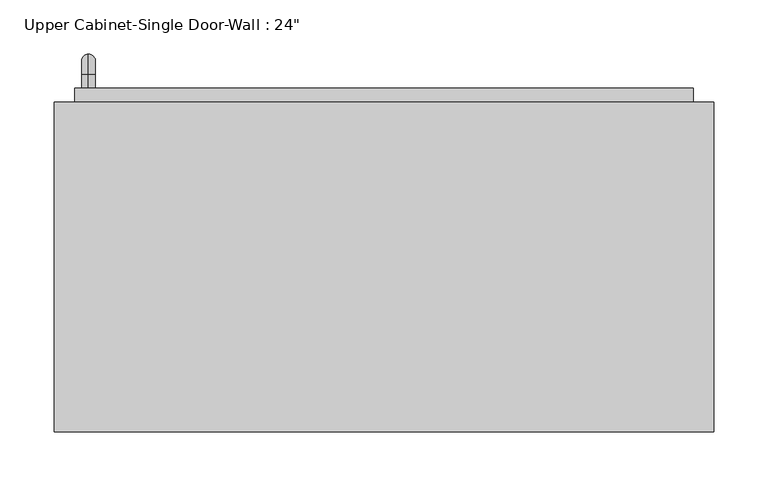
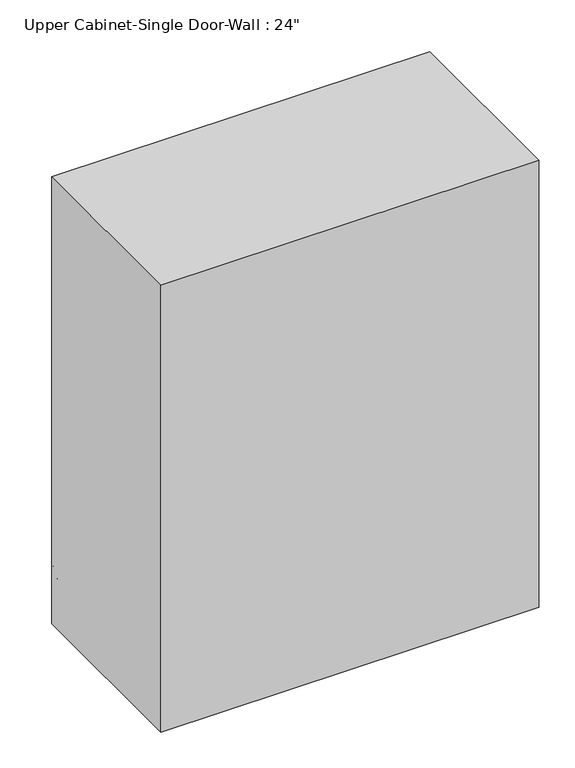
"""IFC4 building model written with IfcOpenShell, lengths in millimetres: furniture geometry."""

from ifc_helpers import new_model, si_unit, point, frame, origin, place, context, project, spatial, polyline, circle_curve, ellipse_curve, trimmed, outline, extrude, faceted_brep, source, transform, mapped, element, save
from ifc_brep_helpers import plane_surface, cylinder_surface, revolved_surface, advanced_brep


def furniture_b880e30f(model_context):
    return source(origin(), model_context, "Body", "SolidModel", [
        faceted_brep([(-275.0288372, 57.15, 2133.6), (-275.0288372, 57.15, 1371.6), (334.5711628, 57.15, 1371.6), (334.5711628, 57.15, 2133.6), (-275.0288372, 361.95, 2133.6), (334.5711628, 361.95, 2133.6), (334.5711628, 361.95, 1371.6), (-275.0288372, 361.95, 1371.6), (-255.9788372, 361.95, 2114.55), (-255.9788372, 361.95, 1390.65), (315.5211628, 361.95, 1390.65), (315.5211628, 361.95, 2114.55), (315.5211628, 76.2, 2114.55), (-255.9788372, 76.2, 2114.55), (315.5211628, 76.2, 1390.65), (-255.9788372, 76.2, 1390.65)], [[[0, 1, 2, 3]], [[4, 5, 6, 7], [8, 9, 10, 11]], [[1, 0, 4, 7]], [[2, 1, 7, 6]], [[3, 2, 6, 5]], [[0, 3, 5, 4]], [[8, 11, 12, 13]], [[11, 10, 14, 12]], [[10, 9, 15, 14]], [[9, 8, 13, 15]], [[13, 12, 14, 15]]]),
        advanced_brep(
        [(-243.2788372, 374.65, 1517.65), (-243.2788372, 374.65, 1530.35), (-243.2788372, 387.35, 1517.65), (-243.2788372, 387.35, 1530.35), (-243.2788372, 406.4, 1511.3), (-243.2788372, 393.7, 1511.3), (-243.2788372, 393.7, 1435.1), (-243.2788372, 406.4, 1435.1), (-243.2788372, 387.35, 1416.05), (-243.2788372, 387.35, 1428.75), (-243.2788372, 374.65, 1428.75), (-243.2788372, 374.65, 1416.05)],
        [
            (0, 1, circle_curve(frame((-243.2788372, 374.65, 1524.0), z_axis=(0.0, -1.0, 0.0), x_axis=(0.0, 0.0, 1.0)), 6.35)),
            (1, 0, circle_curve(frame((-243.2788372, 374.65, 1524.0), z_axis=(0.0, -1.0, 0.0), x_axis=(0.0, 0.0, 1.0)), 6.35)),
            (0, 2),
            (2, 3, circle_curve(frame((-243.2788372, 387.35, 1524.0), z_axis=(0.0, -1.0, 0.0), x_axis=(0.0, 0.0, 1.0)), 6.35)),
            (3, 1),
            (3, 2, circle_curve(frame((-243.2788372, 387.35, 1524.0), z_axis=(0.0, -1.0, 0.0), x_axis=(0.0, 0.0, 1.0)), 6.35)),
            (4, 3, circle_curve(frame((-243.2788372, 387.35, 1511.3), z_axis=(1.0, 0.0, 0.0), x_axis=(0.0, 0.0, 1.0)), 19.05)),
            (2, 5, circle_curve(frame((-243.2788372, 387.35, 1511.3), z_axis=(-1.0, 0.0, 0.0), x_axis=(0.0, 0.0, 1.0)), 6.35)),
            (5, 4, circle_curve(frame((-243.2788372, 400.05, 1511.3), z_axis=(0.0, 0.0, 1.0), x_axis=(0.0, 1.0, 0.0)), 6.35)),
            (4, 5, circle_curve(frame((-243.2788372, 400.05, 1511.3), z_axis=(0.0, 0.0, 1.0), x_axis=(0.0, 1.0, 0.0)), 6.35)),
            (5, 6),
            (6, 7, circle_curve(frame((-243.2788372, 400.05, 1435.1), z_axis=(0.0, 0.0, 1.0), x_axis=(0.0, 1.0, 0.0)), 6.35)),
            (7, 4),
            (7, 6, circle_curve(frame((-243.2788372, 400.05, 1435.1), z_axis=(0.0, 0.0, 1.0), x_axis=(0.0, 1.0, 0.0)), 6.35)),
            (8, 7, circle_curve(frame((-243.2788372, 387.35, 1435.1), z_axis=(1.0, 0.0, 0.0), x_axis=(0.0, 1.0, 0.0)), 19.05)),
            (6, 9, circle_curve(frame((-243.2788372, 387.35, 1435.1), z_axis=(-1.0, 0.0, 0.0), x_axis=(0.0, 1.0, 0.0)), 6.35)),
            (9, 8, circle_curve(frame((-243.2788372, 387.35, 1422.4), z_axis=(0.0, 1.0, 0.0), x_axis=(0.0, 0.0, -1.0)), 6.35)),
            (8, 9, circle_curve(frame((-243.2788372, 387.35, 1422.4), z_axis=(0.0, 1.0, 0.0), x_axis=(0.0, 0.0, -1.0)), 6.35)),
            (10, 11, circle_curve(frame((-243.2788372, 374.65, 1422.4), z_axis=(0.0, -1.0, 0.0), x_axis=(0.0, 0.0, -1.0)), 6.35)),
            (11, 10, circle_curve(frame((-243.2788372, 374.65, 1422.4), z_axis=(0.0, -1.0, 0.0), x_axis=(0.0, 0.0, -1.0)), 6.35)),
            (9, 10),
            (11, 8),
        ],
        [
            plane_surface(frame((-249.6288372, 374.65, 1524.0), z_axis=(0.0, -1.0, 0.0), x_axis=(0.0, 0.0, 1.0))),
            cylinder_surface(frame((-243.2788372, 374.65, 1524.0), z_axis=(0.0, -1.0, 0.0), x_axis=(0.0, 0.0, 1.0)), 6.35),
            revolved_surface(trimmed(ellipse_curve(frame((-243.2788372, 387.35, 1524.0), z_axis=(0.0, -1.0, 0.0), x_axis=(0.0, 0.0, 1.0)), 6.35, 6.35), [point((-243.2788372, 387.35, 1517.65))], [point((-243.2788372, 387.35, 1530.35))], True, "CARTESIAN"), (-243.2788372, 387.35, 1511.3), (-1.0, 0.0, 0.0)),
            revolved_surface(trimmed(ellipse_curve(frame((-243.2788372, 387.35, 1524.0), z_axis=(0.0, -1.0, 0.0), x_axis=(0.0, 0.0, 1.0)), 6.35, 6.35), [point((-243.2788372, 387.35, 1530.35))], [point((-243.2788372, 387.35, 1517.65))], True, "CARTESIAN"), (-243.2788372, 387.35, 1511.3), (-1.0, 0.0, 0.0)),
            cylinder_surface(frame((-243.2788372, 400.05, 1511.3), z_axis=(0.0, 0.0, 1.0), x_axis=(0.0, 1.0, 0.0)), 6.35),
            revolved_surface(trimmed(ellipse_curve(frame((-243.2788372, 400.05, 1435.1), z_axis=(0.0, 0.0, 1.0), x_axis=(0.0, 1.0, 0.0)), 6.35, 6.35), [point((-243.2788372, 393.7, 1435.1))], [point((-243.2788372, 406.4, 1435.1))], True, "CARTESIAN"), (-243.2788372, 387.35, 1435.1), (-1.0, 0.0, 0.0)),
            revolved_surface(trimmed(ellipse_curve(frame((-243.2788372, 400.05, 1435.1), z_axis=(0.0, 0.0, 1.0), x_axis=(0.0, 1.0, 0.0)), 6.35, 6.35), [point((-243.2788372, 406.4, 1435.1))], [point((-243.2788372, 393.7, 1435.1))], True, "CARTESIAN"), (-243.2788372, 387.35, 1435.1), (-1.0, 0.0, 0.0)),
            plane_surface(frame((-249.6288372, 374.65, 1422.4), z_axis=(0.0, -1.0, 0.0), x_axis=(0.0, 0.0, -1.0))),
            cylinder_surface(frame((-243.2788372, 387.35, 1422.4), z_axis=(0.0, 1.0, 0.0), x_axis=(0.0, 0.0, -1.0)), 6.35),
        ],
        [
            (0, [[1, 2]]),
            (1, [[-1, 3, 4, 5]]),
            (1, [[-2, -5, 6, -3]]),
            (2, [[7, -4, 8, 9]]),
            (3, [[-8, -6, -7, 10]]),
            (4, [[-9, 11, 12, 13]]),
            (4, [[-10, -13, 14, -11]]),
            (5, [[15, -12, 16, 17]]),
            (6, [[-16, -14, -15, 18]]),
            (7, [[19, 20]]),
            (8, [[-17, 21, -20, 22]]),
            (8, [[-18, -22, -19, -21]]),
        ],
    ),
        extrude(outline(polyline([(-255.9788372, 374.65), (315.5211628, 374.65), (315.5211628, 342.9), (-255.9788372, 342.9), (-255.9788372, 374.65)])), frame((0.0, 0.0, 1390.65), z_axis=(0.0, 0.0, 1.0), x_axis=(1.0, 0.0, 0.0)), (0.0, 0.0, 1.0), 723.9),
    ])


if __name__ == "__main__":
    model = new_model("IFC4")
    model_context = context("Model", 3, world=origin())
    ifc_project = project(units=[si_unit("LENGTHUNIT", "METRE", prefix="MILLI")], contexts=[model_context])
    site = spatial("IfcSite", under=ifc_project)
    building = spatial("IfcBuilding", under=site)
    placement = place(None, origin())
    furniture_shape = furniture_b880e30f(model_context)
    element("IfcFurniture", 1, ObjectType="Upper Cabinet-Single Door-Wall : 24\"", at=placement, inside=building, context=model_context, shape_type="MappedRepresentation", body=[
        mapped(furniture_shape, transform((0.0, 0.0, 0.0), x_axis=(1.0, 0.0, 0.0), y_axis=(0.0, 1.0, 0.0), z_axis=(0.0, 0.0, 1.0))),
    ])
    save(model, "model.ifc")
